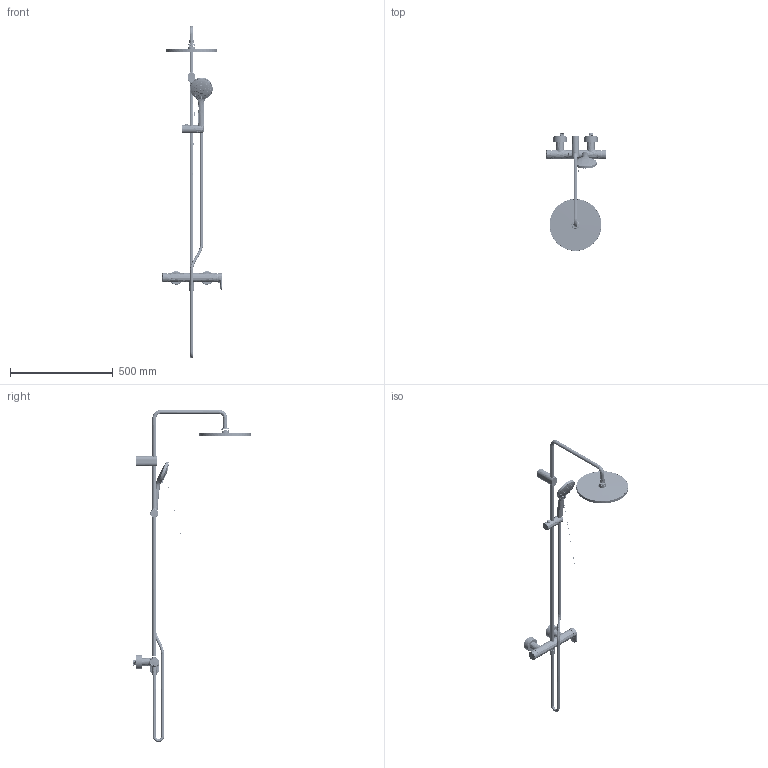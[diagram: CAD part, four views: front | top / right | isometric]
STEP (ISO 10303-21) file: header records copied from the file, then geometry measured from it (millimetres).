
FILE_DESCRIPTION(/* description */ (''),/* implementation_level */ '2;1');
FILE_NAME(/* name */ 'WA4280007C10_WA4280007C46',/* time_stamp */ '2023-01-13T11:46:03+01:00',/* author */ (''),/* organization */ (''),/* preprocessor_version */ 'ST-DEVELOPER v15',/* originating_system */ '',/* authorisation */ '');
FILE_SCHEMA (('AUTOMOTIVE_DESIGN'));
Products named in the file (2): Document; 63509-20-00
Assembly tree (1 placements, depth 2):
  Document
    63509-20-00
Bounding box: 288.67 x 574.07 x 1614.5 mm (x, y, z)
Volume: 372596.1 mm3; surface area: 721970 mm2
Topology: 10 solids, 141 shells, 8790 faces, 26203 edges, 17976 vertices
Faces by surface type: bspline 5198, plane 3592
Entity records: 473635 total; most frequent: CARTESIAN_POINT 315066, ORIENTED_EDGE 51735, EDGE_CURVE 26196, B_SPLINE_CURVE_WITH_KNOTS 19249, VERTEX_POINT 17977, EDGE_LOOP 11628, ADVANCED_FACE 8788, FACE_OUTER_BOUND 8788
